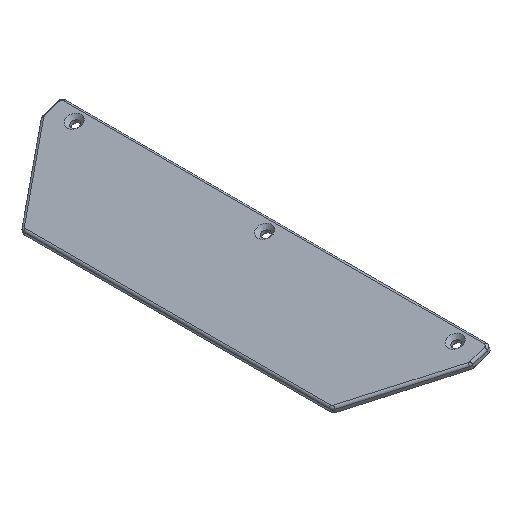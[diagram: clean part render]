
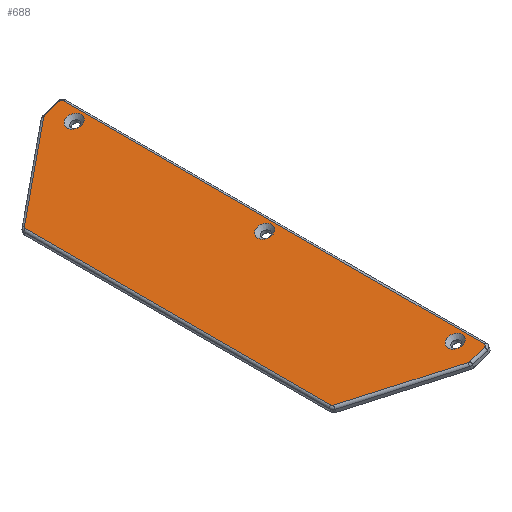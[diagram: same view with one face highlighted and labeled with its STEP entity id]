
A CAD part, isometric view. The second image highlights one B-rep face of the part: STEP entity #688.
In plain terms, the highlighted planar face has unit normal (-0.335, 0, 0.942).
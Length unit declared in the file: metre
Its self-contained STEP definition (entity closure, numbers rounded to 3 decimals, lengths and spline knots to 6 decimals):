
#35=CIRCLE('',#750,0.001);
#44=CIRCLE('',#763,0.001);
#45=CIRCLE('',#764,0.001);
#46=CIRCLE('',#765,0.001);
#47=CIRCLE('',#766,0.001);
#48=CIRCLE('',#767,0.001);
#49=CIRCLE('',#768,0.00329);
#50=CIRCLE('',#769,0.00329);
#51=CIRCLE('',#770,0.00329);
#141=ORIENTED_EDGE('',*,*,#305,.T.);
#142=ORIENTED_EDGE('',*,*,#331,.T.);
#143=ORIENTED_EDGE('',*,*,#332,.T.);
#144=ORIENTED_EDGE('',*,*,#333,.T.);
#145=ORIENTED_EDGE('',*,*,#334,.T.);
#146=ORIENTED_EDGE('',*,*,#335,.T.);
#147=ORIENTED_EDGE('',*,*,#336,.T.);
#148=ORIENTED_EDGE('',*,*,#337,.T.);
#149=ORIENTED_EDGE('',*,*,#338,.T.);
#150=ORIENTED_EDGE('',*,*,#339,.T.);
#151=ORIENTED_EDGE('',*,*,#340,.T.);
#152=ORIENTED_EDGE('',*,*,#313,.T.);
#153=ORIENTED_EDGE('',*,*,#341,.T.);
#154=ORIENTED_EDGE('',*,*,#342,.T.);
#155=ORIENTED_EDGE('',*,*,#343,.T.);
#305=EDGE_CURVE('',#405,#404,#464,.F.);
#313=EDGE_CURVE('',#409,#405,#35,.T.);
#331=EDGE_CURVE('',#404,#424,#44,.T.);
#332=EDGE_CURVE('',#424,#425,#476,.T.);
#333=EDGE_CURVE('',#425,#426,#45,.T.);
#334=EDGE_CURVE('',#426,#427,#477,.F.);
#335=EDGE_CURVE('',#427,#428,#46,.T.);
#336=EDGE_CURVE('',#428,#429,#478,.T.);
#337=EDGE_CURVE('',#429,#430,#47,.T.);
#338=EDGE_CURVE('',#430,#431,#479,.T.);
#339=EDGE_CURVE('',#431,#432,#48,.T.);
#340=EDGE_CURVE('',#432,#409,#480,.T.);
#341=EDGE_CURVE('',#433,#433,#49,.F.);
#342=EDGE_CURVE('',#434,#434,#50,.F.);
#343=EDGE_CURVE('',#435,#435,#51,.F.);
#404=VERTEX_POINT('',#1091);
#405=VERTEX_POINT('',#1093);
#409=VERTEX_POINT('',#1107);
#424=VERTEX_POINT('',#1145);
#425=VERTEX_POINT('',#1147);
#426=VERTEX_POINT('',#1149);
#427=VERTEX_POINT('',#1151);
#428=VERTEX_POINT('',#1153);
#429=VERTEX_POINT('',#1155);
#430=VERTEX_POINT('',#1157);
#431=VERTEX_POINT('',#1159);
#432=VERTEX_POINT('',#1161);
#433=VERTEX_POINT('',#1164);
#434=VERTEX_POINT('',#1166);
#435=VERTEX_POINT('',#1168);
#464=LINE('',#1092,#518);
#476=LINE('',#1146,#530);
#477=LINE('',#1150,#531);
#478=LINE('',#1154,#532);
#479=LINE('',#1158,#533);
#480=LINE('',#1162,#534);
#518=VECTOR('',#851,1.);
#530=VECTOR('',#907,1.);
#531=VECTOR('',#910,1.);
#532=VECTOR('',#913,1.);
#533=VECTOR('',#916,1.);
#534=VECTOR('',#919,1.);
#577=EDGE_LOOP('',(#141,#142,#143,#144,#145,#146,#147,#148,#149,#150,#151,
#152));
#578=EDGE_LOOP('',(#153));
#579=EDGE_LOOP('',(#154));
#580=EDGE_LOOP('',(#155));
#627=FACE_BOUND('',#577,.T.);
#628=FACE_BOUND('',#578,.T.);
#629=FACE_BOUND('',#579,.T.);
#630=FACE_BOUND('',#580,.T.);
#668=PLANE('',#762);
#688=ADVANCED_FACE('',(#627,#628,#629,#630),#668,.T.);
#750=AXIS2_PLACEMENT_3D('',#1108,#870,#871);
#762=AXIS2_PLACEMENT_3D('',#1143,#903,#904);
#763=AXIS2_PLACEMENT_3D('',#1144,#905,#906);
#764=AXIS2_PLACEMENT_3D('',#1148,#908,#909);
#765=AXIS2_PLACEMENT_3D('',#1152,#911,#912);
#766=AXIS2_PLACEMENT_3D('',#1156,#914,#915);
#767=AXIS2_PLACEMENT_3D('',#1160,#917,#918);
#768=AXIS2_PLACEMENT_3D('',#1163,#920,#921);
#769=AXIS2_PLACEMENT_3D('',#1165,#922,#923);
#770=AXIS2_PLACEMENT_3D('',#1167,#924,#925);
#851=DIRECTION('',(0.942,0.,0.335));
#870=DIRECTION('',(-0.335,0.,0.942));
#871=DIRECTION('',(0.942,0.,0.335));
#903=DIRECTION('',(-0.335,0.,0.942));
#904=DIRECTION('',(0.942,0.,0.335));
#905=DIRECTION('',(-0.335,0.,0.942));
#906=DIRECTION('',(0.942,0.,0.335));
#907=DIRECTION('',(-0.769,-0.577,-0.274));
#908=DIRECTION('',(-0.335,0.,0.942));
#909=DIRECTION('',(0.942,0.,0.335));
#910=DIRECTION('',(0.,1.,0.));
#911=DIRECTION('',(-0.335,0.,0.942));
#912=DIRECTION('',(0.942,0.,0.335));
#913=DIRECTION('',(0.769,-0.577,0.274));
#914=DIRECTION('',(-0.335,0.,0.942));
#915=DIRECTION('',(0.942,0.,0.335));
#916=DIRECTION('',(0.942,0.,0.335));
#917=DIRECTION('',(-0.335,0.,0.942));
#918=DIRECTION('',(0.942,0.,0.335));
#919=DIRECTION('',(0.,1.,0.));
#920=DIRECTION('',(-0.335,0.,0.942));
#921=DIRECTION('',(0.942,0.,0.335));
#922=DIRECTION('',(-0.335,0.,0.942));
#923=DIRECTION('',(0.942,0.,0.335));
#924=DIRECTION('',(-0.335,0.,0.942));
#925=DIRECTION('',(0.942,0.,0.335));
#1091=CARTESIAN_POINT('',(0.035594,0.096,0.100839));
#1092=CARTESIAN_POINT('',(0.024042,0.096,0.096732));
#1093=CARTESIAN_POINT('',(0.042111,0.096,0.103157));
#1107=CARTESIAN_POINT('',(0.043053,0.095,0.103492));
#1108=CARTESIAN_POINT('',(0.042111,0.095,0.103157));
#1143=CARTESIAN_POINT('',(0.024042,0.,0.096732));
#1144=CARTESIAN_POINT('',(0.035594,0.095,0.100839));
#1145=CARTESIAN_POINT('',(0.03505,0.095817,0.100646));
#1146=CARTESIAN_POINT('',(0.03505,0.095817,0.100646));
#1147=CARTESIAN_POINT('',(0.000336,0.069781,0.088303));
#1148=CARTESIAN_POINT('',(0.000879,0.068964,0.088497));
#1149=CARTESIAN_POINT('',(-0.000063,0.068964,0.088162));
#1150=CARTESIAN_POINT('',(-0.000063,0.,0.088162));
#1151=CARTESIAN_POINT('',(-0.000063,-0.068964,0.088162));
#1152=CARTESIAN_POINT('',(0.000879,-0.068964,0.088497));
#1153=CARTESIAN_POINT('',(0.000336,-0.069781,0.088303));
#1154=CARTESIAN_POINT('',(0.000336,-0.069781,0.088303));
#1155=CARTESIAN_POINT('',(0.03505,-0.095817,0.100646));
#1156=CARTESIAN_POINT('',(0.035594,-0.095,0.100839));
#1157=CARTESIAN_POINT('',(0.035594,-0.096,0.100839));
#1158=CARTESIAN_POINT('',(0.024042,-0.096,0.096732));
#1159=CARTESIAN_POINT('',(0.042111,-0.096,0.103157));
#1160=CARTESIAN_POINT('',(0.042111,-0.095,0.103157));
#1161=CARTESIAN_POINT('',(0.043053,-0.095,0.103492));
#1162=CARTESIAN_POINT('',(0.043053,0.,0.103492));
#1163=CARTESIAN_POINT('',(0.038995,-0.086,0.102049));
#1164=CARTESIAN_POINT('',(0.035895,-0.086,0.100947));
#1165=CARTESIAN_POINT('',(0.038995,0.,0.102049));
#1166=CARTESIAN_POINT('',(0.035895,0.,0.100947));
#1167=CARTESIAN_POINT('',(0.038995,0.086,0.102049));
#1168=CARTESIAN_POINT('',(0.035895,0.086,0.100947));
